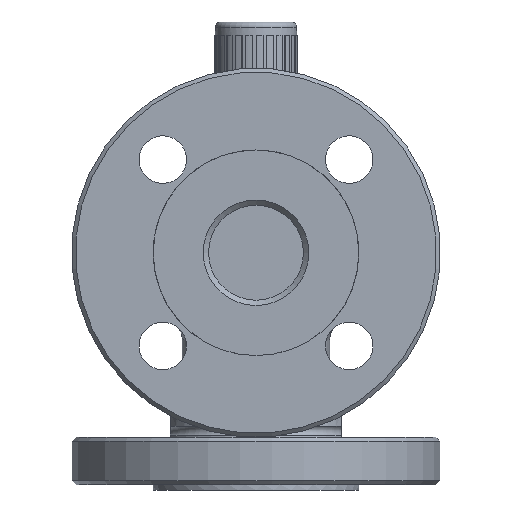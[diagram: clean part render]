
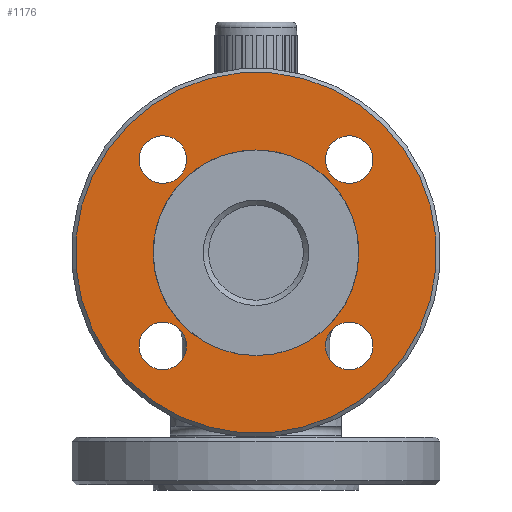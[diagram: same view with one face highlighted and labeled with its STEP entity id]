
A CAD part, left-side view. The second image highlights one B-rep face of the part: STEP entity #1176.
In plain terms, the highlighted planar face has unit normal (-1, 0, 0).
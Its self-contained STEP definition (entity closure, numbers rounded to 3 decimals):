
#1176=ADVANCED_FACE('',(#1644,#1645,#1646,#1647,#1648,#1649),#1443,.T.);
#1443=PLANE('',#5197);
#1644=FACE_BOUND('',#1984,.T.);
#1645=FACE_BOUND('',#1985,.T.);
#1646=FACE_BOUND('',#1986,.T.);
#1647=FACE_BOUND('',#1987,.T.);
#1648=FACE_BOUND('',#1988,.T.);
#1649=FACE_BOUND('',#1989,.T.);
#1984=EDGE_LOOP('',(#2672));
#1985=EDGE_LOOP('',(#2673));
#1986=EDGE_LOOP('',(#2674));
#1987=EDGE_LOOP('',(#2675));
#1988=EDGE_LOOP('',(#2676));
#1989=EDGE_LOOP('',(#2677));
#2672=ORIENTED_EDGE('',*,*,#4280,.T.);
#2673=ORIENTED_EDGE('',*,*,#4281,.F.);
#2674=ORIENTED_EDGE('',*,*,#4282,.T.);
#2675=ORIENTED_EDGE('',*,*,#4283,.T.);
#2676=ORIENTED_EDGE('',*,*,#4284,.T.);
#2677=ORIENTED_EDGE('',*,*,#4285,.T.);
#3771=VERTEX_POINT('',#13452);
#3772=VERTEX_POINT('',#13454);
#3773=VERTEX_POINT('',#13456);
#3774=VERTEX_POINT('',#13458);
#3775=VERTEX_POINT('',#13460);
#3776=VERTEX_POINT('',#13462);
#4280=EDGE_CURVE('',#3771,#3771,#4834,.T.);
#4281=EDGE_CURVE('',#3772,#3772,#4835,.T.);
#4282=EDGE_CURVE('',#3773,#3773,#4836,.T.);
#4283=EDGE_CURVE('',#3774,#3774,#4837,.T.);
#4284=EDGE_CURVE('',#3775,#3775,#4838,.T.);
#4285=EDGE_CURVE('',#3776,#3776,#4839,.T.);
#4834=CIRCLE('',#5191,68.5);
#4835=CIRCLE('',#5192,39.);
#4836=CIRCLE('',#5193,9.);
#4837=CIRCLE('',#5194,9.);
#4838=CIRCLE('',#5195,9.);
#4839=CIRCLE('',#5196,9.);
#5191=AXIS2_PLACEMENT_3D('',#13451,#5944,#5945);
#5192=AXIS2_PLACEMENT_3D('',#13453,#5946,#5947);
#5193=AXIS2_PLACEMENT_3D('',#13455,#5948,#5949);
#5194=AXIS2_PLACEMENT_3D('',#13457,#5950,#5951);
#5195=AXIS2_PLACEMENT_3D('',#13459,#5952,#5953);
#5196=AXIS2_PLACEMENT_3D('',#13461,#5954,#5955);
#5197=AXIS2_PLACEMENT_3D('',#13463,#5956,#5957);
#5944=DIRECTION('',(-1.,0.,0.));
#5945=DIRECTION('',(0.,0.707,0.707));
#5946=DIRECTION('',(-1.,0.,0.));
#5947=DIRECTION('',(0.,0.707,0.707));
#5948=DIRECTION('',(1.,0.,0.));
#5949=DIRECTION('',(0.,-0.707,0.707));
#5950=DIRECTION('',(1.,0.,0.));
#5951=DIRECTION('',(0.,0.707,0.707));
#5952=DIRECTION('',(1.,0.,0.));
#5953=DIRECTION('',(0.,0.707,-0.707));
#5954=DIRECTION('',(1.,0.,0.));
#5955=DIRECTION('',(0.,-0.707,-0.707));
#5956=DIRECTION('',(-1.,0.,0.));
#5957=DIRECTION('',(0.,0.707,0.707));
#13451=CARTESIAN_POINT('',(12.,0.,100.));
#13452=CARTESIAN_POINT('',(12.,48.437,148.437));
#13453=CARTESIAN_POINT('',(12.,0.,100.));
#13454=CARTESIAN_POINT('',(12.,27.577,127.577));
#13455=CARTESIAN_POINT('',(12.,35.355,135.355));
#13456=CARTESIAN_POINT('',(12.,28.991,141.719));
#13457=CARTESIAN_POINT('',(12.,35.355,64.645));
#13458=CARTESIAN_POINT('',(12.,41.719,71.009));
#13459=CARTESIAN_POINT('',(12.,-35.355,64.645));
#13460=CARTESIAN_POINT('',(12.,-28.991,58.281));
#13461=CARTESIAN_POINT('',(12.,-35.355,135.355));
#13462=CARTESIAN_POINT('',(12.,-41.719,128.991));
#13463=CARTESIAN_POINT('',(12.,0.,100.));
